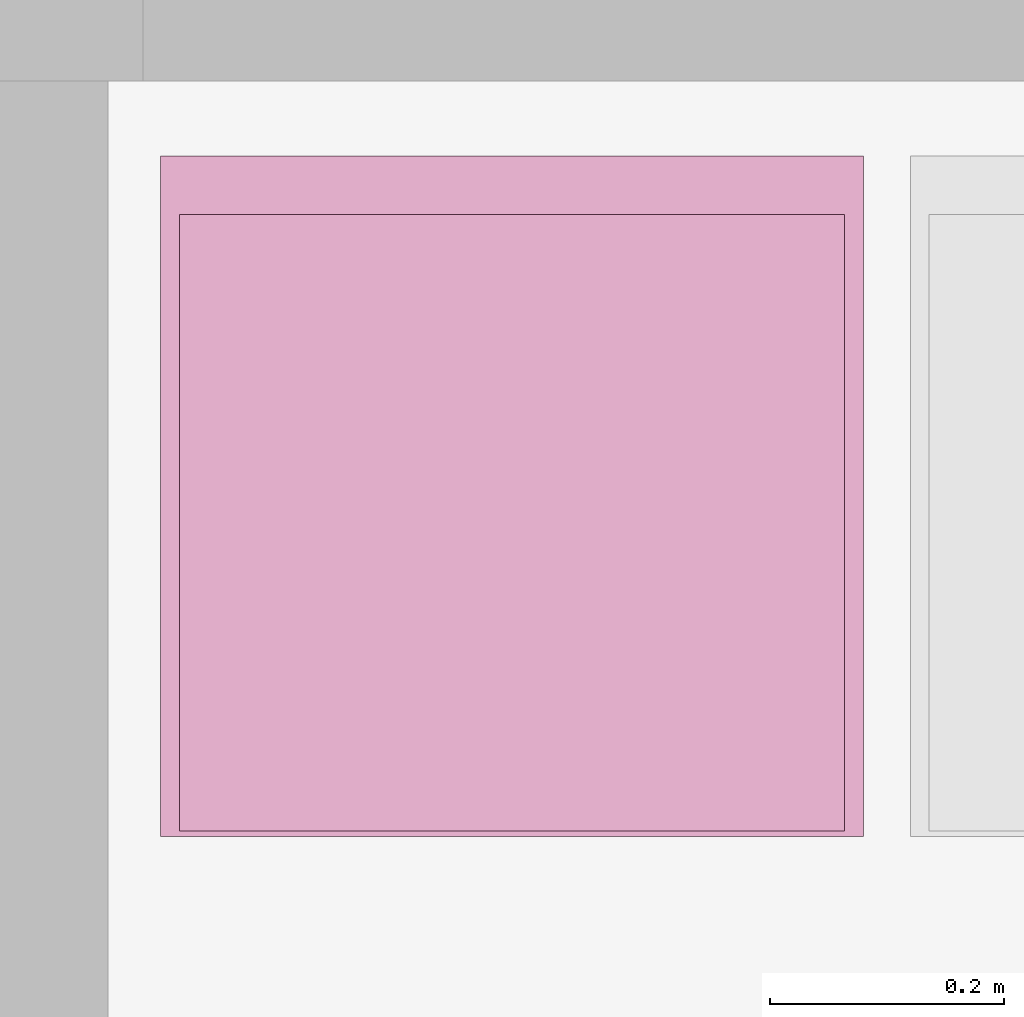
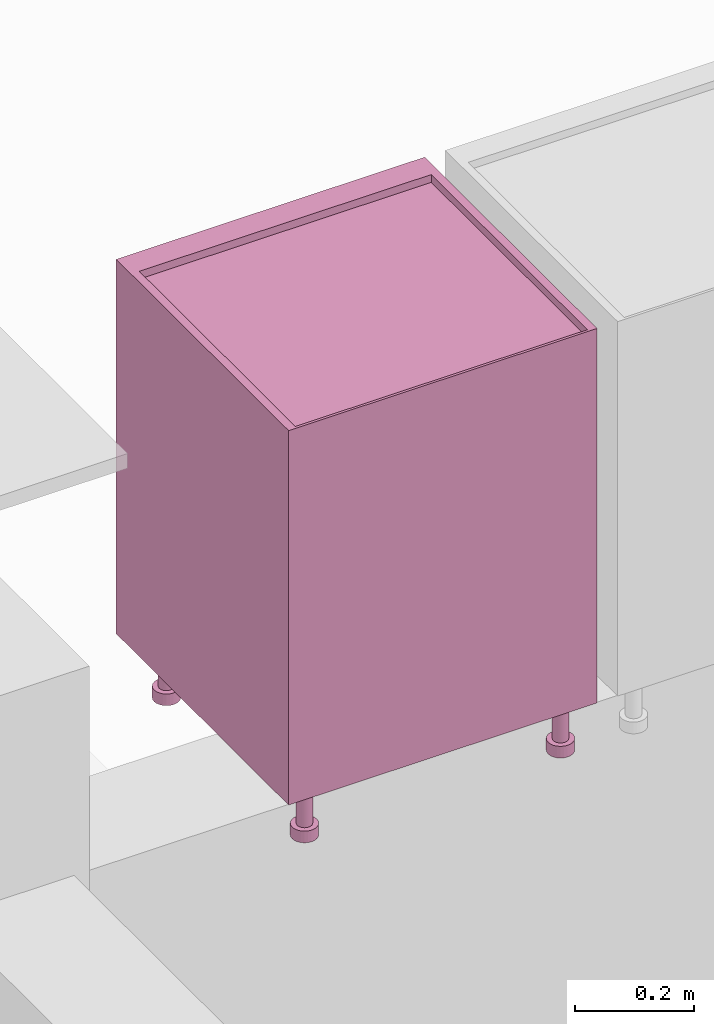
# One storey, part 18 of 55: 1 furnishing.
"""IFC2X3 building model written with IfcOpenShell, lengths in millimetres."""

from ifc_helpers import new_model, entity, si_unit, converted_unit, direction, frame, origin, place, context, subcontext, project, spatial, faceted_brep, source, transform, mapped, material, type_object, type_shapes, element, save


model = new_model("IFC2X3")

# Units and contexts
model_context = context("Model", 3, precision=0.01, world=origin(), true_north=direction((6.123233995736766e-17, 1.0)))
plan_context = context("Plan", 3, precision=0.01, world=origin(), true_north=direction((6.123233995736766e-17, 1.0)))
body_context = subcontext(model_context, "Body", "Model", "MODEL_VIEW")
ifc_project = project(units=[si_unit("LENGTHUNIT", "METRE", prefix="MILLI"), converted_unit("PLANEANGLEUNIT", "DEGREE", entity("IfcPlaneAngleMeasure", 0.017453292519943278), si_unit("PLANEANGLEUNIT", "RADIAN"), dimensions=[0, 0, 0, 0, 0, 0, 0]), si_unit("AREAUNIT", "SQUARE_METRE")], contexts=[model_context, plan_context])

# Site, building, storey, space
site_placement = place(None, origin())
site = spatial("IfcSite", under=ifc_project, at=site_placement, Name="Default", CompositionType="ELEMENT")
building_placement = place(site_placement, origin())
building = spatial("IfcBuilding", under=site, at=building_placement, CompositionType="ELEMENT")
storey_placement = place(building_placement, origin())
storey = spatial("IfcBuildingStorey", under=building, at=storey_placement, Name="1K", CompositionType="ELEMENT", Elevation=0.0)
space_placement = place(storey_placement, origin())
space = spatial("IfcSpace", under=storey, at=space_placement, Name="1-0.8", CompositionType="ELEMENT", InteriorOrExteriorSpace="INTERNAL")

# Furnishing
ifc_material = material(Name="<Unnamed>")
furniture_type = type_object("IfcFurnitureType", Name="HR_Casework_Kitchen_Generic_Appliance_v4:Washing Machine", AssemblyPlace="NOTDEFINED", material=ifc_material)
shared_shape = source(origin(), body_context, "Body", "Brep", [
    faceted_brep([(305.7003264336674, -585.7846096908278, -3101.0), (310.6708891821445, -581.9705627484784, -3101.0), (300.70032643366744, -577.1243556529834, -3101.0), (297.32379306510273, -578.5229615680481, -3101.0), (299.91198351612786, -588.1822198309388, -3101.0), (303.59982137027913, -574.8994949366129, -3101.0), (314.4849361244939, -577.0, -3101.0), (305.82468208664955, -572.0, -3101.0), (307.2232880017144, -568.6234666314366, -3101.0), (316.8825462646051, -571.2116570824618, -3101.0), (307.70032643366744, -565.0, -3101.0), (317.7003264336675, -565.0, -3101.0), (307.2232880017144, -561.3765333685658, -3101.0), (316.88254626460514, -558.7883429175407, -3101.0), (305.82468208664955, -558.0, -3101.0), (314.484936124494, -553.0, -3101.0), (303.59982137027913, -555.1005050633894, -3101.0), (310.67088918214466, -548.0294372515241, -3101.0), (300.70032643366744, -552.875644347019, -3101.0), (305.7003264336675, -544.2153903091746, -3101.0), (297.32379306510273, -551.4770384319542, -3101.0), (299.91198351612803, -541.8177801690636, -3101.0), (293.7003264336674, -551.0, -3101.0), (293.70032643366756, -541.0, -3101.0), (290.07685980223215, -551.4770384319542, -3101.0), (287.488669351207, -541.8177801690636, -3101.0), (286.70032643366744, -552.875644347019, -3101.0), (281.7003264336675, -544.2153903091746, -3101.0), (283.80083149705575, -555.1005050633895, -3101.0), (276.7297636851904, -548.029437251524, -3101.0), (281.5759707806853, -558.0, -3101.0), (272.91571674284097, -553.0, -3101.0), (270.51810660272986, -558.7883429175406, -3101.0), (280.1773648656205, -561.3765333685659, -3101.0), (269.7003264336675, -565.0, -3101.0), (279.7003264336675, -565.0, -3101.0), (270.51810660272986, -571.2116570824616, -3101.0), (280.1773648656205, -568.6234666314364, -3101.0), (272.9157167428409, -577.0, -3101.0), (281.57597078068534, -572.0, -3101.0), (276.7297636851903, -581.9705627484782, -3101.0), (283.80083149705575, -574.8994949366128, -3101.0), (281.70032643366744, -585.7846096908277, -3101.0), (286.70032643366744, -577.1243556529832, -3101.0), (287.4886693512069, -588.1822198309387, -3101.0), (290.07685980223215, -578.5229615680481, -3101.0), (293.7003264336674, -589.0, -3101.0), (293.70032643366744, -579.0, -3101.0), (299.91198351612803, -541.8177801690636, -3125.0), (305.7003264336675, -544.2153903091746, -3125.0), (310.67088918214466, -548.0294372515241, -3125.0), (314.484936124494, -553.0, -3125.0), (316.88254626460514, -558.7883429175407, -3125.0), (317.7003264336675, -565.0, -3125.0), (316.8825462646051, -571.2116570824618, -3125.0), (314.4849361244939, -577.0, -3125.0), (310.6708891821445, -581.9705627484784, -3125.0), (305.7003264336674, -585.7846096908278, -3125.0), (299.91198351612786, -588.1822198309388, -3125.0), (293.7003264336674, -589.0, -3125.0), (287.4886693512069, -588.1822198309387, -3125.0), (281.70032643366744, -585.7846096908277, -3125.0), (276.7297636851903, -581.9705627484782, -3125.0), (272.9157167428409, -577.0, -3125.0), (270.51810660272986, -571.2116570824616, -3125.0), (269.7003264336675, -565.0, -3125.0), (270.51810660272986, -558.7883429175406, -3125.0), (272.91571674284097, -553.0, -3125.0), (276.7297636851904, -548.029437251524, -3125.0), (281.7003264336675, -544.2153903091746, -3125.0), (287.488669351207, -541.8177801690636, -3125.0), (293.70032643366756, -541.0, -3125.0), (297.32379306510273, -578.5229615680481, -3025.0), (300.70032643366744, -577.1243556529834, -3025.0), (303.59982137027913, -574.8994949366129, -3025.0), (305.8246820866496, -572.0, -3025.0), (307.2232880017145, -568.6234666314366, -3025.0), (307.70032643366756, -565.0, -3025.0), (307.2232880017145, -561.3765333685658, -3025.0), (305.8246820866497, -558.0, -3025.0), (303.5998213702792, -555.1005050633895, -3025.0), (300.70032643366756, -552.875644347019, -3025.0), (297.32379306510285, -551.4770384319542, -3025.0), (293.70032643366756, -551.0, -3025.0), (290.07685980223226, -551.4770384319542, -3025.0), (286.70032643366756, -552.875644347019, -3025.0), (283.80083149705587, -555.1005050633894, -3025.0), (281.5759707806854, -558.0, -3025.0), (280.1773648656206, -561.3765333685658, -3025.0), (279.70032643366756, -565.0, -3025.0), (280.1773648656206, -568.6234666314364, -3025.0), (281.5759707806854, -572.0, -3025.0), (283.8008314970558, -574.8994949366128, -3025.0), (286.7003264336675, -577.1243556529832, -3025.0), (290.07685980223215, -578.5229615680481, -3025.0), (293.70032643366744, -579.0, -3025.0)], [[[0, 1, 2]], [[0, 2, 3]], [[3, 4, 0]], [[2, 1, 5]], [[6, 5, 1]], [[7, 5, 6]], [[8, 7, 6]], [[8, 6, 9]], [[8, 9, 10]], [[10, 9, 11]], [[12, 10, 11]], [[12, 11, 13]], [[14, 12, 13]], [[14, 13, 15]], [[16, 14, 15]], [[15, 17, 16]], [[17, 18, 16]], [[18, 17, 19]], [[18, 19, 20]], [[21, 20, 19]], [[20, 21, 22]], [[22, 21, 23]], [[23, 24, 22]], [[24, 23, 25]], [[24, 25, 26]], [[27, 26, 25]], [[27, 28, 26]], [[27, 29, 28]], [[30, 28, 29]], [[31, 30, 29]], [[32, 30, 31]], [[33, 30, 32]], [[33, 32, 34]], [[34, 35, 33]], [[36, 35, 34]], [[36, 37, 35]], [[37, 36, 38]], [[39, 37, 38]], [[39, 38, 40]], [[39, 40, 41]], [[40, 42, 41]], [[41, 42, 43]], [[43, 42, 44]], [[44, 45, 43]], [[46, 45, 44]], [[4, 47, 46]], [[45, 46, 47]], [[4, 3, 47]], [[48, 49, 50, 51, 52, 53, 54, 55, 56, 57, 58, 59, 60, 61, 62, 63, 64, 65, 66, 67, 68, 69, 70, 71]], [[64, 36, 34, 65]], [[63, 38, 36, 64]], [[42, 40, 62, 61]], [[63, 62, 40, 38]], [[44, 42, 61, 60]], [[46, 44, 60, 59]], [[58, 4, 46, 59]], [[57, 0, 4, 58]], [[54, 53, 11, 9]], [[1, 0, 57, 56]], [[6, 55, 54, 9]], [[6, 1, 56, 55]], [[52, 13, 11, 53]], [[51, 15, 13, 52]], [[19, 17, 50, 49]], [[51, 50, 17, 15]], [[21, 19, 49, 48]], [[23, 21, 48, 71]], [[27, 69, 68, 29]], [[31, 67, 66, 32]], [[68, 67, 31, 29]], [[32, 66, 65, 34]], [[25, 70, 69, 27]], [[70, 25, 23, 71]], [[72, 73, 74, 75, 76, 77, 78, 79, 80, 81, 82, 83, 84, 85, 86, 87, 88, 89, 90, 91, 92, 93, 94, 95]], [[37, 39, 91, 90]], [[35, 37, 90, 89]], [[43, 45, 94, 93]], [[41, 43, 93, 92]], [[39, 41, 92, 91]], [[47, 95, 94, 45]], [[2, 5, 74, 73]], [[3, 2, 73, 72]], [[8, 10, 77, 76]], [[7, 8, 76, 75]], [[5, 7, 75, 74]], [[3, 72, 95, 47]], [[79, 78, 12, 14]], [[78, 77, 10, 12]], [[80, 16, 18, 81]], [[16, 80, 79, 14]], [[81, 18, 20, 82]], [[22, 83, 82, 20]], [[26, 28, 86, 85]], [[24, 26, 85, 84]], [[33, 35, 89, 88]], [[30, 33, 88, 87]], [[28, 30, 87, 86]], [[24, 84, 83, 22]]]),
    faceted_brep([(-192.29967356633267, -585.7846096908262, -3101.0), (-187.3291108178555, -581.9705627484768, -3101.0), (-197.29967356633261, -577.1243556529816, -3101.0), (-200.67620693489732, -578.5229615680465, -3101.0), (-198.08801648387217, -588.1822198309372, -3101.0), (-194.40017862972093, -574.8994949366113, -3101.0), (-183.51506387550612, -577.0, -3101.0), (-192.17531791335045, -572.0, -3101.0), (-190.77671199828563, -568.6234666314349, -3101.0), (-181.11745373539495, -571.2116570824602, -3101.0), (-190.29967356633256, -565.0, -3101.0), (-180.29967356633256, -565.0, -3101.0), (-190.77671199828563, -561.3765333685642, -3101.0), (-181.11745373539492, -558.788342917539, -3101.0), (-192.17531791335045, -558.0, -3101.0), (-183.515063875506, -553.0, -3101.0), (-194.40017862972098, -555.1005050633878, -3101.0), (-187.3291108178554, -548.0294372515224, -3101.0), (-197.29967356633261, -552.8756443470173, -3101.0), (-192.29967356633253, -544.215390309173, -3101.0), (-200.67620693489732, -551.4770384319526, -3101.0), (-198.08801648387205, -541.8177801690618, -3101.0), (-204.29967356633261, -551.0, -3101.0), (-204.29967356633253, -541.0, -3101.0), (-207.92314019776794, -551.4770384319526, -3101.0), (-210.51133064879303, -541.8177801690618, -3101.0), (-211.29967356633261, -552.8756443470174, -3101.0), (-216.29967356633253, -544.215390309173, -3101.0), (-214.19916850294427, -555.1005050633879, -3101.0), (-221.27023631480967, -548.0294372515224, -3101.0), (-216.42402921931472, -558.0, -3101.0), (-225.08428325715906, -553.0, -3101.0), (-227.48189339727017, -558.788342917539, -3101.0), (-217.8226351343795, -561.3765333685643, -3101.0), (-228.2996735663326, -565.0, -3101.0), (-218.29967356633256, -565.0, -3101.0), (-227.48189339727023, -571.21165708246, -3101.0), (-217.8226351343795, -568.6234666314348, -3101.0), (-225.08428325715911, -577.0, -3101.0), (-216.42402921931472, -572.0, -3101.0), (-221.27023631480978, -581.9705627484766, -3101.0), (-214.19916850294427, -574.8994949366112, -3101.0), (-216.29967356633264, -585.784609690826, -3101.0), (-211.29967356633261, -577.1243556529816, -3101.0), (-210.51133064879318, -588.1822198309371, -3101.0), (-207.9231401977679, -578.5229615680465, -3101.0), (-204.2996735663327, -589.0, -3101.0), (-204.29967356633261, -579.0, -3101.0), (-198.08801648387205, -541.8177801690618, -3125.0), (-192.29967356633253, -544.215390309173, -3125.0), (-187.3291108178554, -548.0294372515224, -3125.0), (-183.515063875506, -553.0, -3125.0), (-181.11745373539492, -558.788342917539, -3125.0), (-180.29967356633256, -565.0, -3125.0), (-181.11745373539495, -571.2116570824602, -3125.0), (-183.51506387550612, -577.0, -3125.0), (-187.3291108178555, -581.9705627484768, -3125.0), (-192.29967356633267, -585.7846096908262, -3125.0), (-198.08801648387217, -588.1822198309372, -3125.0), (-204.2996735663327, -589.0, -3125.0), (-210.51133064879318, -588.1822198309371, -3125.0), (-216.29967356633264, -585.784609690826, -3125.0), (-221.27023631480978, -581.9705627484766, -3125.0), (-225.08428325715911, -577.0, -3125.0), (-227.48189339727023, -571.21165708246, -3125.0), (-228.2996735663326, -565.0, -3125.0), (-227.48189339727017, -558.788342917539, -3125.0), (-225.08428325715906, -553.0, -3125.0), (-221.27023631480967, -548.0294372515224, -3125.0), (-216.29967356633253, -544.215390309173, -3125.0), (-210.51133064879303, -541.8177801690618, -3125.0), (-204.29967356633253, -541.0, -3125.0), (-200.67620693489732, -578.5229615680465, -3025.0), (-197.29967356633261, -577.1243556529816, -3025.0), (-194.40017862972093, -574.8994949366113, -3025.0), (-192.17531791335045, -572.0, -3025.0), (-190.77671199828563, -568.6234666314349, -3025.0), (-190.29967356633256, -565.0, -3025.0), (-190.77671199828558, -561.3765333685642, -3025.0), (-192.1753179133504, -558.0, -3025.0), (-194.40017862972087, -555.1005050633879, -3025.0), (-197.29967356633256, -552.8756443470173, -3025.0), (-200.67620693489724, -551.4770384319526, -3025.0), (-204.29967356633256, -551.0, -3025.0), (-207.92314019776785, -551.4770384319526, -3025.0), (-211.29967356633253, -552.8756443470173, -3025.0), (-214.1991685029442, -555.1005050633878, -3025.0), (-216.4240292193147, -558.0, -3025.0), (-217.8226351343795, -561.3765333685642, -3025.0), (-218.29967356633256, -565.0, -3025.0), (-217.8226351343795, -568.6234666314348, -3025.0), (-216.42402921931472, -572.0, -3025.0), (-214.19916850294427, -574.8994949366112, -3025.0), (-211.2996735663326, -577.1243556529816, -3025.0), (-207.9231401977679, -578.5229615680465, -3025.0), (-204.29967356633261, -579.0, -3025.0)], [[[0, 1, 2]], [[0, 2, 3]], [[3, 4, 0]], [[2, 1, 5]], [[6, 5, 1]], [[7, 5, 6]], [[8, 7, 6]], [[8, 6, 9]], [[8, 9, 10]], [[10, 9, 11]], [[12, 10, 11]], [[12, 11, 13]], [[14, 12, 13]], [[14, 13, 15]], [[16, 14, 15]], [[15, 17, 16]], [[17, 18, 16]], [[18, 17, 19]], [[18, 19, 20]], [[21, 20, 19]], [[20, 21, 22]], [[22, 21, 23]], [[23, 24, 22]], [[24, 23, 25]], [[24, 25, 26]], [[27, 26, 25]], [[27, 28, 26]], [[27, 29, 28]], [[30, 28, 29]], [[31, 30, 29]], [[32, 30, 31]], [[33, 30, 32]], [[33, 32, 34]], [[34, 35, 33]], [[36, 35, 34]], [[36, 37, 35]], [[37, 36, 38]], [[39, 37, 38]], [[39, 38, 40]], [[39, 40, 41]], [[40, 42, 41]], [[41, 42, 43]], [[43, 42, 44]], [[44, 45, 43]], [[46, 45, 44]], [[4, 47, 46]], [[45, 46, 47]], [[4, 3, 47]], [[48, 49, 50, 51, 52, 53, 54, 55, 56, 57, 58, 59, 60, 61, 62, 63, 64, 65, 66, 67, 68, 69, 70, 71]], [[64, 36, 34, 65]], [[63, 38, 36, 64]], [[42, 40, 62, 61]], [[63, 62, 40, 38]], [[44, 42, 61, 60]], [[46, 44, 60, 59]], [[58, 4, 46, 59]], [[57, 0, 4, 58]], [[54, 53, 11, 9]], [[1, 0, 57, 56]], [[6, 55, 54, 9]], [[6, 1, 56, 55]], [[52, 13, 11, 53]], [[51, 15, 13, 52]], [[19, 17, 50, 49]], [[51, 50, 17, 15]], [[21, 19, 49, 48]], [[23, 21, 48, 71]], [[27, 69, 68, 29]], [[31, 67, 66, 32]], [[68, 67, 31, 29]], [[32, 66, 65, 34]], [[25, 70, 69, 27]], [[70, 25, 23, 71]], [[72, 73, 74, 75, 76, 77, 78, 79, 80, 81, 82, 83, 84, 85, 86, 87, 88, 89, 90, 91, 92, 93, 94, 95]], [[37, 39, 91, 90]], [[35, 37, 90, 89]], [[43, 45, 94, 93]], [[41, 43, 93, 92]], [[39, 41, 92, 91]], [[47, 95, 94, 45]], [[2, 5, 74, 73]], [[3, 2, 73, 72]], [[8, 10, 77, 76]], [[7, 8, 76, 75]], [[5, 7, 75, 74]], [[3, 72, 95, 47]], [[79, 78, 12, 14]], [[78, 77, 10, 12]], [[80, 16, 18, 81]], [[16, 80, 79, 14]], [[81, 18, 20, 82]], [[22, 83, 82, 20]], [[26, 28, 86, 85]], [[24, 26, 85, 84]], [[33, 35, 89, 88]], [[30, 33, 88, 87]], [[28, 30, 87, 86]], [[24, 84, 83, 22]]]),
    faceted_brep([(305.70032643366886, -120.78460969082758, -3101.0), (310.670889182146, -116.97056274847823, -3101.0), (300.7003264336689, -112.12435565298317, -3101.0), (297.3237930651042, -113.52296156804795, -3101.0), (299.91198351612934, -123.18221983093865, -3101.0), (303.5998213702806, -109.8994949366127, -3101.0), (314.48493612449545, -112.0, -3101.0), (305.824682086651, -107.0, -3101.0), (307.2232880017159, -103.62346663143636, -3101.0), (316.88254626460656, -106.21165708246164, -3101.0), (307.700326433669, -100.0, -3101.0), (317.700326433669, -100.0, -3101.0), (307.2232880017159, -96.3765333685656, -3101.0), (316.8825462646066, -93.78834291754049, -3101.0), (305.824682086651, -93.0, -3101.0), (314.4849361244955, -88.0, -3101.0), (303.5998213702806, -90.10050506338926, -3101.0), (310.67088918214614, -83.02943725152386, -3101.0), (300.7003264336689, -87.8756443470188, -3101.0), (305.700326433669, -79.21539030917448, -3101.0), (297.3237930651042, -86.477038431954, -3101.0), (299.9119835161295, -76.81778016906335, -3101.0), (293.70032643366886, -86.0, -3101.0), (293.70032643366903, -76.0, -3101.0), (290.0768598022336, -86.47703843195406, -3101.0), (287.4886693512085, -76.81778016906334, -3101.0), (286.7003264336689, -87.87564434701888, -3101.0), (281.700326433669, -79.21539030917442, -3101.0), (283.8008314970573, -90.10050506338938, -3101.0), (276.72976368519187, -83.0294372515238, -3101.0), (281.5759707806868, -93.0, -3101.0), (272.91571674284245, -88.0, -3101.0), (270.51810660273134, -93.78834291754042, -3101.0), (280.177364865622, -96.37653336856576, -3101.0), (269.700326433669, -100.0, -3101.0), (279.700326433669, -100.0, -3101.0), (270.51810660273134, -106.2116570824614, -3101.0), (280.177364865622, -103.62346663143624, -3101.0), (272.9157167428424, -112.0, -3101.0), (281.5759707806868, -107.0, -3101.0), (276.72976368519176, -116.97056274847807, -3101.0), (283.8008314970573, -109.89949493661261, -3101.0), (281.7003264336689, -120.78460969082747, -3101.0), (286.7003264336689, -112.1243556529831, -3101.0), (287.4886693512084, -123.1822198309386, -3101.0), (290.0768598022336, -113.52296156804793, -3101.0), (293.70032643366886, -124.0, -3101.0), (293.7003264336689, -114.0, -3101.0), (299.9119835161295, -76.81778016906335, -3125.0), (305.700326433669, -79.21539030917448, -3125.0), (310.67088918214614, -83.02943725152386, -3125.0), (314.4849361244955, -88.0, -3125.0), (316.8825462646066, -93.78834291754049, -3125.0), (317.700326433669, -100.0, -3125.0), (316.88254626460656, -106.21165708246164, -3125.0), (314.48493612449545, -112.0, -3125.0), (310.670889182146, -116.97056274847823, -3125.0), (305.70032643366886, -120.78460969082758, -3125.0), (299.91198351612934, -123.18221983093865, -3125.0), (293.70032643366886, -124.0, -3125.0), (287.4886693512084, -123.1822198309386, -3125.0), (281.7003264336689, -120.78460969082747, -3125.0), (276.72976368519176, -116.97056274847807, -3125.0), (272.9157167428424, -112.0, -3125.0), (270.51810660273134, -106.2116570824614, -3125.0), (269.700326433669, -100.0, -3125.0), (270.51810660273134, -93.78834291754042, -3125.0), (272.91571674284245, -88.0, -3125.0), (276.72976368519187, -83.0294372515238, -3125.0), (281.700326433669, -79.21539030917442, -3125.0), (287.4886693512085, -76.81778016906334, -3125.0), (293.70032643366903, -76.0, -3125.0), (297.32379306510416, -113.52296156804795, -3025.0), (300.70032643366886, -112.12435565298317, -3025.0), (303.59982137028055, -109.8994949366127, -3025.0), (305.824682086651, -107.0, -3025.0), (307.22328800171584, -103.62346663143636, -3025.0), (307.700326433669, -100.0, -3025.0), (307.2232880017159, -96.3765333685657, -3025.0), (305.82468208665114, -93.0, -3025.0), (303.5998213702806, -90.10050506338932, -3025.0), (300.700326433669, -87.87564434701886, -3025.0), (297.32379306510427, -86.47703843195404, -3025.0), (293.700326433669, -86.0, -3025.0), (290.0768598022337, -86.47703843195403, -3025.0), (286.700326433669, -87.87564434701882, -3025.0), (283.8008314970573, -90.1005050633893, -3025.0), (281.5759707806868, -93.0, -3025.0), (280.177364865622, -96.37653336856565, -3025.0), (279.700326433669, -100.0, -3025.0), (280.177364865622, -103.62346663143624, -3025.0), (281.5759707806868, -107.0, -3025.0), (283.80083149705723, -109.89949493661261, -3025.0), (286.7003264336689, -112.1243556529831, -3025.0), (290.07685980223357, -113.52296156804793, -3025.0), (293.70032643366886, -114.0, -3025.0)], [[[0, 1, 2]], [[0, 2, 3]], [[3, 4, 0]], [[2, 1, 5]], [[6, 5, 1]], [[7, 5, 6]], [[8, 7, 6]], [[8, 6, 9]], [[8, 9, 10]], [[10, 9, 11]], [[12, 10, 11]], [[12, 11, 13]], [[14, 12, 13]], [[14, 13, 15]], [[16, 14, 15]], [[15, 17, 16]], [[17, 18, 16]], [[18, 17, 19]], [[18, 19, 20]], [[21, 20, 19]], [[20, 21, 22]], [[22, 21, 23]], [[23, 24, 22]], [[24, 23, 25]], [[24, 25, 26]], [[27, 26, 25]], [[27, 28, 26]], [[27, 29, 28]], [[30, 28, 29]], [[31, 30, 29]], [[32, 30, 31]], [[33, 30, 32]], [[33, 32, 34]], [[34, 35, 33]], [[36, 35, 34]], [[36, 37, 35]], [[37, 36, 38]], [[39, 37, 38]], [[39, 38, 40]], [[39, 40, 41]], [[40, 42, 41]], [[41, 42, 43]], [[43, 42, 44]], [[44, 45, 43]], [[46, 45, 44]], [[4, 47, 46]], [[45, 46, 47]], [[4, 3, 47]], [[48, 49, 50, 51, 52, 53, 54, 55, 56, 57, 58, 59, 60, 61, 62, 63, 64, 65, 66, 67, 68, 69, 70, 71]], [[64, 36, 34, 65]], [[63, 38, 36, 64]], [[42, 40, 62, 61]], [[63, 62, 40, 38]], [[44, 42, 61, 60]], [[46, 44, 60, 59]], [[58, 4, 46, 59]], [[57, 0, 4, 58]], [[54, 53, 11, 9]], [[1, 0, 57, 56]], [[6, 55, 54, 9]], [[6, 1, 56, 55]], [[52, 13, 11, 53]], [[51, 15, 13, 52]], [[19, 17, 50, 49]], [[51, 50, 17, 15]], [[21, 19, 49, 48]], [[23, 21, 48, 71]], [[27, 69, 68, 29]], [[31, 67, 66, 32]], [[68, 67, 31, 29]], [[32, 66, 65, 34]], [[25, 70, 69, 27]], [[70, 25, 23, 71]], [[72, 73, 74, 75, 76, 77, 78, 79, 80, 81, 82, 83, 84, 85, 86, 87, 88, 89, 90, 91, 92, 93, 94, 95]], [[37, 39, 91, 90]], [[35, 37, 90, 89]], [[43, 45, 94, 93]], [[41, 43, 93, 92]], [[39, 41, 92, 91]], [[47, 95, 94, 45]], [[2, 5, 74, 73]], [[3, 2, 73, 72]], [[8, 10, 77, 76]], [[7, 8, 76, 75]], [[5, 7, 75, 74]], [[3, 72, 95, 47]], [[79, 78, 12, 14]], [[78, 77, 10, 12]], [[80, 16, 18, 81]], [[16, 80, 79, 14]], [[81, 18, 20, 82]], [[22, 83, 82, 20]], [[26, 28, 86, 85]], [[24, 26, 85, 84]], [[33, 35, 89, 88]], [[30, 33, 88, 87]], [[28, 30, 87, 86]], [[24, 84, 83, 22]]]),
    faceted_brep([(-192.299673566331, -120.78460969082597, -3101.0), (-187.3291108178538, -116.97056274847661, -3101.0), (-197.29967356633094, -112.12435565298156, -3101.0), (-200.67620693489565, -113.52296156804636, -3101.0), (-198.0880164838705, -123.18221983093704, -3101.0), (-194.40017862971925, -109.89949493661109, -3101.0), (-183.5150638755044, -112.0, -3101.0), (-192.17531791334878, -107.0, -3101.0), (-190.77671199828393, -103.62346663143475, -3101.0), (-181.11745373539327, -106.21165708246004, -3101.0), (-190.29967356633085, -100.0, -3101.0), (-180.29967356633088, -100.0, -3101.0), (-190.77671199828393, -96.376533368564, -3101.0), (-181.11745373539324, -93.78834291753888, -3101.0), (-192.17531791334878, -93.0, -3101.0), (-183.51506387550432, -88.0, -3101.0), (-194.40017862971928, -90.10050506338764, -3101.0), (-187.32911081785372, -83.02943725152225, -3101.0), (-197.29967356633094, -87.8756443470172, -3101.0), (-192.29967356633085, -79.21539030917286, -3101.0), (-200.67620693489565, -86.4770384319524, -3101.0), (-198.08801648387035, -76.81778016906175, -3101.0), (-204.29967356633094, -86.0, -3101.0), (-204.29967356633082, -76.0, -3101.0), (-207.92314019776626, -86.47703843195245, -3101.0), (-210.51133064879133, -76.81778016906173, -3101.0), (-211.29967356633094, -87.87564434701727, -3101.0), (-216.29967356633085, -79.21539030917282, -3101.0), (-214.19916850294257, -90.10050506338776, -3101.0), (-221.270236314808, -83.0294372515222, -3101.0), (-216.424029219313, -93.0, -3101.0), (-225.08428325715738, -88.0, -3101.0), (-227.4818933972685, -93.78834291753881, -3101.0), (-217.82263513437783, -96.37653336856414, -3101.0), (-228.29967356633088, -100.0, -3101.0), (-218.29967356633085, -100.0, -3101.0), (-227.48189339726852, -106.2116570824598, -3101.0), (-217.82263513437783, -103.62346663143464, -3101.0), (-225.08428325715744, -112.0, -3101.0), (-216.424029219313, -107.0, -3101.0), (-221.27023631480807, -116.97056274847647, -3101.0), (-214.19916850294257, -109.899494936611, -3101.0), (-216.29967356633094, -120.78460969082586, -3101.0), (-211.29967356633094, -112.12435565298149, -3101.0), (-210.51133064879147, -123.18221983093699, -3101.0), (-207.9231401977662, -113.52296156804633, -3101.0), (-204.299673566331, -124.0, -3101.0), (-204.29967356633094, -114.0, -3101.0), (-198.08801648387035, -76.81778016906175, -3125.0), (-192.29967356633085, -79.21539030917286, -3125.0), (-187.32911081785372, -83.02943725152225, -3125.0), (-183.51506387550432, -88.0, -3125.0), (-181.11745373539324, -93.78834291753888, -3125.0), (-180.29967356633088, -100.0, -3125.0), (-181.11745373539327, -106.21165708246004, -3125.0), (-183.5150638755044, -112.0, -3125.0), (-187.3291108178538, -116.97056274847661, -3125.0), (-192.299673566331, -120.78460969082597, -3125.0), (-198.0880164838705, -123.18221983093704, -3125.0), (-204.299673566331, -124.0, -3125.0), (-210.51133064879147, -123.18221983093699, -3125.0), (-216.29967356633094, -120.78460969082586, -3125.0), (-221.27023631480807, -116.97056274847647, -3125.0), (-225.08428325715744, -112.0, -3125.0), (-227.48189339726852, -106.2116570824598, -3125.0), (-228.29967356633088, -100.0, -3125.0), (-227.4818933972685, -93.78834291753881, -3125.0), (-225.08428325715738, -88.0, -3125.0), (-221.270236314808, -83.0294372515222, -3125.0), (-216.29967356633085, -79.21539030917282, -3125.0), (-210.51133064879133, -76.81778016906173, -3125.0), (-204.29967356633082, -76.0, -3125.0), (-200.67620693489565, -113.52296156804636, -3025.0), (-197.29967356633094, -112.12435565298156, -3025.0), (-194.40017862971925, -109.89949493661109, -3025.0), (-192.17531791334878, -107.0, -3025.0), (-190.77671199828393, -103.62346663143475, -3025.0), (-190.29967356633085, -100.0, -3025.0), (-190.7767119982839, -96.3765333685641, -3025.0), (-192.1753179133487, -93.0, -3025.0), (-194.4001786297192, -90.10050506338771, -3025.0), (-197.29967356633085, -87.87564434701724, -3025.0), (-200.67620693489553, -86.47703843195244, -3025.0), (-204.29967356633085, -86.0, -3025.0), (-207.92314019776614, -86.47703843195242, -3025.0), (-211.29967356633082, -87.87564434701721, -3025.0), (-214.1991685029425, -90.10050506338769, -3025.0), (-216.42402921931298, -93.0, -3025.0), (-217.82263513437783, -96.37653336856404, -3025.0), (-218.29967356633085, -100.0, -3025.0), (-217.82263513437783, -103.62346663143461, -3025.0), (-216.424029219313, -107.0, -3025.0), (-214.19916850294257, -109.899494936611, -3025.0), (-211.29967356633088, -112.12435565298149, -3025.0), (-207.9231401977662, -113.52296156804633, -3025.0), (-204.29967356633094, -114.0, -3025.0)], [[[0, 1, 2]], [[0, 2, 3]], [[3, 4, 0]], [[2, 1, 5]], [[6, 5, 1]], [[7, 5, 6]], [[8, 7, 6]], [[8, 6, 9]], [[8, 9, 10]], [[10, 9, 11]], [[12, 10, 11]], [[12, 11, 13]], [[14, 12, 13]], [[14, 13, 15]], [[16, 14, 15]], [[15, 17, 16]], [[17, 18, 16]], [[18, 17, 19]], [[18, 19, 20]], [[21, 20, 19]], [[20, 21, 22]], [[22, 21, 23]], [[23, 24, 22]], [[24, 23, 25]], [[24, 25, 26]], [[27, 26, 25]], [[27, 28, 26]], [[27, 29, 28]], [[30, 28, 29]], [[31, 30, 29]], [[32, 30, 31]], [[33, 30, 32]], [[33, 32, 34]], [[34, 35, 33]], [[36, 35, 34]], [[36, 37, 35]], [[37, 36, 38]], [[39, 37, 38]], [[39, 38, 40]], [[39, 40, 41]], [[40, 42, 41]], [[41, 42, 43]], [[43, 42, 44]], [[44, 45, 43]], [[46, 45, 44]], [[4, 47, 46]], [[45, 46, 47]], [[4, 3, 47]], [[48, 49, 50, 51, 52, 53, 54, 55, 56, 57, 58, 59, 60, 61, 62, 63, 64, 65, 66, 67, 68, 69, 70, 71]], [[64, 36, 34, 65]], [[63, 38, 36, 64]], [[42, 40, 62, 61]], [[63, 62, 40, 38]], [[44, 42, 61, 60]], [[46, 44, 60, 59]], [[58, 4, 46, 59]], [[57, 0, 4, 58]], [[54, 53, 11, 9]], [[1, 0, 57, 56]], [[6, 55, 54, 9]], [[6, 1, 56, 55]], [[52, 13, 11, 53]], [[51, 15, 13, 52]], [[19, 17, 50, 49]], [[51, 50, 17, 15]], [[21, 19, 49, 48]], [[23, 21, 48, 71]], [[27, 69, 68, 29]], [[31, 67, 66, 32]], [[68, 67, 31, 29]], [[32, 66, 65, 34]], [[25, 70, 69, 27]], [[70, 25, 23, 71]], [[72, 73, 74, 75, 76, 77, 78, 79, 80, 81, 82, 83, 84, 85, 86, 87, 88, 89, 90, 91, 92, 93, 94, 95]], [[37, 39, 91, 90]], [[35, 37, 90, 89]], [[43, 45, 94, 93]], [[41, 43, 93, 92]], [[39, 41, 92, 91]], [[47, 95, 94, 45]], [[2, 5, 74, 73]], [[3, 2, 73, 72]], [[8, 10, 77, 76]], [[7, 8, 76, 75]], [[5, 7, 75, 74]], [[3, 72, 95, 47]], [[79, 78, 12, 14]], [[78, 77, 10, 12]], [[80, 16, 18, 81]], [[16, 80, 79, 14]], [[81, 18, 20, 82]], [[22, 83, 82, 20]], [[26, 28, 86, 85]], [[24, 26, 85, 84]], [[33, 35, 89, 88]], [[30, 33, 88, 87]], [[28, 30, 87, 86]], [[24, 84, 83, 22]]]),
    faceted_brep([(328.70032643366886, -19.0, -3009.0), (-239.2996735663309, -19.0, -3009.0), (-239.29967356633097, -595.0, -3009.0), (328.70032643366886, -595.0, -3009.0), (328.70032643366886, -19.0, -3025.0), (328.70032643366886, -595.0, -3025.0), (-239.29967356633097, -595.0, -3025.0), (-239.29967356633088, -19.0, -3025.0)], [[[0, 1, 2, 3]], [[4, 5, 6, 7]], [[1, 0, 4, 7]], [[2, 1, 7, 6]], [[3, 2, 6, 5]], [[0, 3, 5, 4]]]),
    faceted_brep([(-255.29967356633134, -19.0, -2255.0), (-255.2996735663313, -600.0, -2255.0), (344.7003264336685, -600.0, -2255.0), (344.7003264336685, -19.0, -2255.0), (328.70032643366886, -19.0, -2255.0), (328.70032643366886, -595.0, -2255.0), (-239.2996735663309, -595.0, -2255.0), (-239.2996735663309, -19.0, -2255.0), (-255.29967356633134, -19.0, -3025.0), (-239.2996735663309, -19.0, -3025.0), (-239.29967356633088, -595.0, -3025.0), (328.70032643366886, -595.0, -3025.0), (328.70032643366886, -19.0, -3025.0), (344.7003264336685, -19.0, -3025.0), (344.7003264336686, -600.0, -3025.0), (-255.2996735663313, -600.0, -3025.0)], [[[0, 1, 2, 3, 4, 5, 6, 7]], [[8, 9, 10, 11, 12, 13, 14, 15]], [[1, 0, 8, 15]], [[0, 7, 9, 8]], [[7, 6, 10, 9]], [[5, 4, 12, 11]], [[4, 3, 13, 12]], [[3, 2, 14, 13]], [[2, 1, 15, 14]], [[6, 5, 11, 10]]]),
    faceted_brep([(328.70032643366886, -69.0, -2255.0), (328.70032643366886, -19.0, -2255.0), (-239.29967356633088, -19.0, -2255.0), (-239.29967356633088, -69.0, -2255.0), (328.70032643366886, -69.0, -2271.0), (-239.29967356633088, -69.0, -2271.0), (-239.29967356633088, -19.0, -2271.0), (328.70032643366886, -19.0, -2271.0)], [[[0, 1, 2, 3]], [[4, 5, 6, 7]], [[0, 3, 5, 4]], [[3, 2, 6, 5]], [[2, 1, 7, 6]], [[1, 0, 4, 7]]]),
    faceted_brep([(328.7003264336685, -19.0, -2271.0), (-239.29967356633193, -19.0, -2271.0), (-239.2996735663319, -595.0, -2271.0), (328.7003264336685, -595.0, -2271.0), (328.7003264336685, -19.0, -3009.0), (328.7003264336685, -595.0, -3009.0), (-239.2996735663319, -595.0, -3009.0), (-239.2996735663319, -19.0, -3009.0)], [[[0, 1, 2, 3]], [[4, 5, 6, 7]], [[1, 0, 4, 7]], [[2, 1, 7, 6]], [[3, 2, 6, 5]], [[0, 3, 5, 4]]]),
])
type_shapes(furniture_type, [shared_shape])
furnishing_placement = place(space_placement, frame((12445.293208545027, 6359.999959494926, 6250.0)))
element("IfcFurnishingElement", 1, at=furnishing_placement, inside=space, type_object=furniture_type, material=ifc_material, Name="HR_Casework_Kitchen_Generic_Appliance_v4:Washing Machine", ObjectType="HR_Casework_Kitchen_Generic_Appliance_v4:Washing Machine", context=body_context, shape_type="MappedRepresentation", body=[
    mapped(shared_shape, transform((0.0, 0.0, 0.0), scale=1.0)),
])

save(model, "model.ifc")
